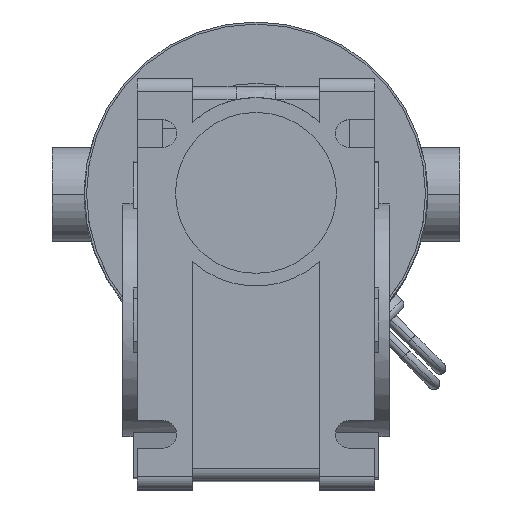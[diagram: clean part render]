
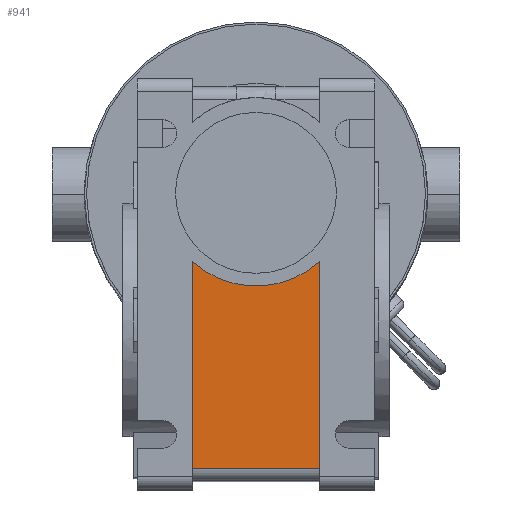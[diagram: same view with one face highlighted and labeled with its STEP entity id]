
A CAD part, top view. The second image highlights one B-rep face of the part: STEP entity #941.
In plain terms, the highlighted planar face has unit normal (0, 0, 1).
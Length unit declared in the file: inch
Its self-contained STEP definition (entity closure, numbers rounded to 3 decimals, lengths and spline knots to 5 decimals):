
#938 = VERTEX_POINT ( 'NONE', #5090 ) ;
#940 = EDGE_CURVE ( 'NONE', #963, #938, #5089, .T. ) ;
#941 = ADVANCED_FACE ( 'NONE', ( #5083 ), #5148, .F. ) ;
#942 = EDGE_LOOP ( 'NONE', ( #943, #946, #947, #950 ) ) ;
#943 = ORIENTED_EDGE ( 'NONE', *, *, #944, .T. ) ;
#944 = EDGE_CURVE ( 'NONE', #945, #963, #5084, .T. ) ;
#945 = VERTEX_POINT ( 'NONE', #5140 ) ;
#946 = ORIENTED_EDGE ( 'NONE', *, *, #940, .T. ) ;
#947 = ORIENTED_EDGE ( 'NONE', *, *, #948, .T. ) ;
#948 = EDGE_CURVE ( 'NONE', #938, #949, #5139, .T. ) ;
#949 = VERTEX_POINT ( 'NONE', #5134 ) ;
#950 = ORIENTED_EDGE ( 'NONE', *, *, #951, .T. ) ;
#951 = EDGE_CURVE ( 'NONE', #949, #945, #5133, .T. ) ;
#963 = VERTEX_POINT ( 'NONE', #5175 ) ;
#5083 = FACE_OUTER_BOUND ( 'NONE', #942, .T. ) ;
#5084 = LINE ( 'NONE', #5143, #5142 ) ;
#5086 = DIRECTION ( 'NONE',  ( 1., 0., 0. ) ) ;
#5087 = VECTOR ( 'NONE', #5086, 39.37008 ) ;
#5088 = CARTESIAN_POINT ( 'NONE',  ( 0., -2.55906, 3.94142 ) ) ;
#5089 = LINE ( 'NONE', #5088, #5087 ) ;
#5090 = CARTESIAN_POINT ( 'NONE',  ( 0.59055, -2.55906, 3.94142 ) ) ;
#5128 = DIRECTION ( 'NONE',  ( 1., 0., 0. ) ) ;
#5129 = DIRECTION ( 'NONE',  ( 0., 0., -1. ) ) ;
#5130 = CARTESIAN_POINT ( 'NONE',  ( 0., 0.00984, 3.94142 ) ) ;
#5131 = AXIS2_PLACEMENT_3D ( 'NONE', #5130, #5129, #5128 ) ;
#5133 = CIRCLE ( 'NONE', #5131, 0.87598 ) ;
#5134 = CARTESIAN_POINT ( 'NONE',  ( 0.59055, -0.63715, 3.94142 ) ) ;
#5136 = DIRECTION ( 'NONE',  ( 0., 1., 0. ) ) ;
#5137 = VECTOR ( 'NONE', #5136, 39.37008 ) ;
#5138 = CARTESIAN_POINT ( 'NONE',  ( 0.59055, -2.67717, 3.94142 ) ) ;
#5139 = LINE ( 'NONE', #5138, #5137 ) ;
#5140 = CARTESIAN_POINT ( 'NONE',  ( -0.59055, -0.63715, 3.94142 ) ) ;
#5141 = DIRECTION ( 'NONE',  ( 0., -1., 0. ) ) ;
#5142 = VECTOR ( 'NONE', #5141, 39.37008 ) ;
#5143 = CARTESIAN_POINT ( 'NONE',  ( -0.59055, -2.67717, 3.94142 ) ) ;
#5144 = DIRECTION ( 'NONE',  ( 0., -1., 0. ) ) ;
#5145 = DIRECTION ( 'NONE',  ( 0., 0., -1. ) ) ;
#5146 = CARTESIAN_POINT ( 'NONE',  ( 0., 0.00984, 3.94142 ) ) ;
#5147 = AXIS2_PLACEMENT_3D ( 'NONE', #5146, #5145, #5144 ) ;
#5148 = PLANE ( 'NONE',  #5147 ) ;
#5175 = CARTESIAN_POINT ( 'NONE',  ( -0.59055, -2.55906, 3.94142 ) ) ;
